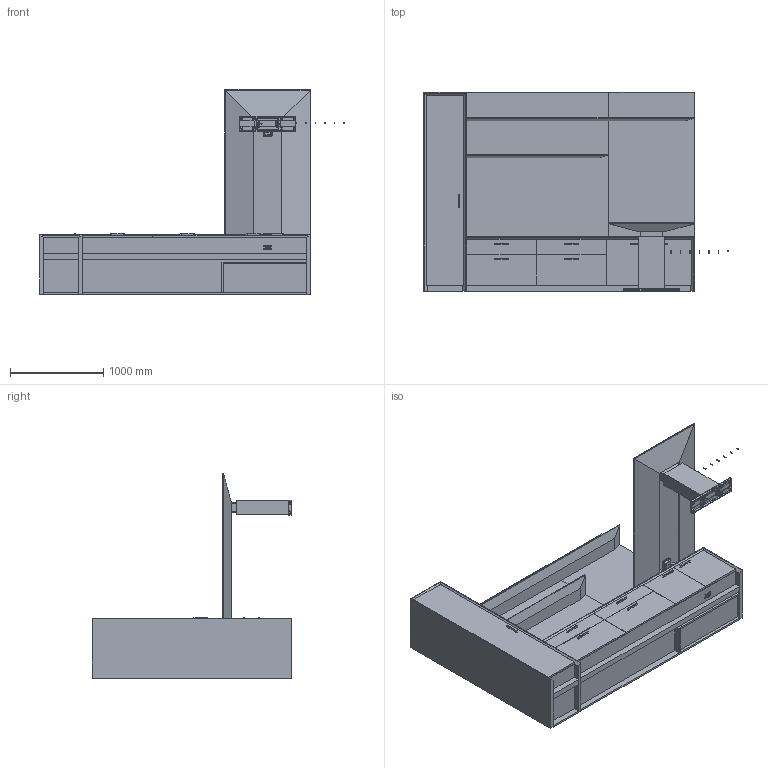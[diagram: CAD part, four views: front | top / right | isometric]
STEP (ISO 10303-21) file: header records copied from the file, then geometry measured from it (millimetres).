
FILE_DESCRIPTION(/* description */ ('','CAx-IF Rec.Pracs.---Representation and Presentation of Product Manufacturing Information (PMI)---4.0---2014-10-13'),/* implementation_level */ '2;1');
FILE_NAME(/* name */ 'AERO^PO1.stp',/* time_stamp */ '2024-12-05T16:11:20-05:00',/* author */ ('mbowman'),/* organization */ (''),/* preprocessor_version */ 'ST-DEVELOPER v19.2',/* originating_system */ 'Autodesk Inventor 2023',/* authorisation */ '');
FILE_SCHEMA (('AP242_MANAGED_MODEL_BASED_3D_ENGINEERING_MIM_LF { 1 0 10303 442 1 1 4 }'));
Products named in the file (23): AERO^OFFICE 1_FIXED TABLE DESK-SOLIDS ASSEMBLY; AERO^OFFICE 1_96 CREDENZA RIGHT-PARTS SOLID; AERO^OFFICE 1_WARDROBE LEFT-PARTS SOID; AERO^OFFICE 1_WALL HUNGS-36x60 RT; AERO^OFFICE 1_WALL HUNGS-60x60 LT; AERO^OFFICE 1_WALL HUNG SHELVES-10x96; AERO^OFFICE 1_WALL HUNG SHELVES-10x60; AERO^OFFICE 1_6 x 24 Base-REV2; H-QCTB24-SS; H-QFTB24; _AMC-630-AL^BASE FRAME; _AMC-630-AL^BASE FRAME PLT; _AMC-630-AL^BASE FRAME 02; _AMC-630-AL^BASE FRAME 02_1; GLIDE-H-713A-SHORT STEM; AERO^OFFICE 1_DESK SUPPORT LEG-PARTS SOLID; dl5nc_without_bracket_STEP; dl5nc_without_bracket_STEP_1; DL5NC_OP; STANDART_MOTORHUS1_DL5; H-Q-PULLNEW; AERO^OFFICE 1_36x84 TABLE STYLE-WORKSURFACE; AERO^OFFICE 1_DESK SUPPORT LEG-SMALL END SHROUD
Assembly tree (46 placements, depth 4):
  AERO^OFFICE 1_FIXED TABLE DESK-SOLIDS ASSEMBLY
    AERO^OFFICE 1_96 CREDENZA RIGHT-PARTS SOLID
    AERO^OFFICE 1_WARDROBE LEFT-PARTS SOID
    AERO^OFFICE 1_WALL HUNGS-36x60 RT
    AERO^OFFICE 1_WALL HUNGS-60x60 LT
    AERO^OFFICE 1_WALL HUNG SHELVES-10x96
    AERO^OFFICE 1_WALL HUNG SHELVES-10x60
    AERO^OFFICE 1_6 x 24 Base-REV2
      H-QCTB24-SS
      H-QFTB24
        _AMC-630-AL^BASE FRAME  x2
        _AMC-630-AL^BASE FRAME 02  x4
        _AMC-630-AL^BASE FRAME PLT  x2
        _AMC-630-AL^BASE FRAME 02_1  x4
      GLIDE-H-713A-SHORT STEM  x8
    AERO^OFFICE 1_DESK SUPPORT LEG-PARTS SOLID
    dl5nc_without_bracket_STEP
      DL5NC_OP
      STANDART_MOTORHUS1_DL5
    dl5nc_without_bracket_STEP_1
      DL5NC_OP
      STANDART_MOTORHUS1_DL5
    H-Q-PULLNEW  x7
    AERO^OFFICE 1_36x84 TABLE STYLE-WORKSURFACE
    AERO^OFFICE 1_DESK SUPPORT LEG-SMALL END SHROUD  x2
Bounding box: 3257.97 x 2133.6 x 2184.4 mm (x, y, z)
Volume: 533533617.1 mm3; surface area: 47344189.5 mm2
Topology: 80 solids, 124 shells, 2929 faces, 7367 edges, 4677 vertices
Faces by surface type: plane 1768, cylinder 917, torus 92, bspline 90, sphere 32, cone 30
Full cylindrical faces by diameter (mm): 3.962 x14, 4.6 x4, 4.978 x8, 5 x20, 5.3 x12, 5.5 x4, 7.874 x4, 7.938 x16, 8 x4, 8.202 x40, 11.112 x6, 48.26 x1
Entity records: 54045 total; most frequent: CARTESIAN_POINT 13185, DIRECTION 8117, ORIENTED_EDGE 7680, EDGE_CURVE 3840, AXIS2_PLACEMENT_3D 2754, LINE 2609, VECTOR 2609, VERTEX_POINT 2449
